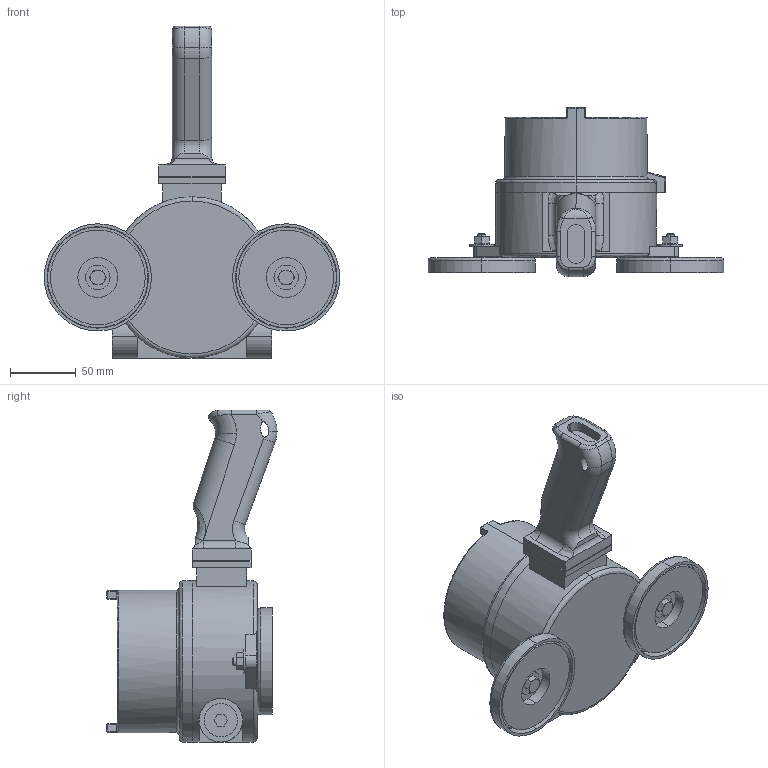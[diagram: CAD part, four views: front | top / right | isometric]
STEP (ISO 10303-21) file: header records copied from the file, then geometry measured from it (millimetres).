
FILE_DESCRIPTION (( 'STEP AP214' ), '1' );
FILE_NAME ('EXPCMR-IP-POE-4MP-IR-HM.STEP', '2020-03-02T20:15:52', ( '' ), ( '' ), 'SwSTEP 2.0', 'SolidWorks 2016', '' );
FILE_SCHEMA (( 'AUTOMOTIVE_DESIGN' ));
Length unit declared in the file: inch
Products named in the file (9): hex nut_ai_HNUT 0.2500-20-D-N; flat washer type b regular_ai_Regular FW 0.25; 50LB Magnet; EXPCMR-IP-POE-4MP-IR-HM - Handle; EPL-AED-1X; EPL-AED-1X Top; EPL-AED-1X Bottom; EXPCMR-IP-POE-4MP-IR-HM; hex bolt_ai_HBOLT 0.2500-20x0.875x0.75-N
Assembly tree (14 placements, depth 3):
  EXPCMR-IP-POE-4MP-IR-HM
    EPL-AED-1X
      EPL-AED-1X Bottom
      EPL-AED-1X Top
    EXPCMR-IP-POE-4MP-IR-HM - Handle
    50LB Magnet  x2
    flat washer type b regular_ai_Regular FW 0.25  x4
    hex nut_ai_HNUT 0.2500-20-D-N  x2
    hex bolt_ai_HBOLT 0.2500-20x0.875x0.75-N  x2
Bounding box: 224.16 x 128.94 x 251.78 mm (x, y, z)
Volume: 710371.5 mm3; surface area: 229138.4 mm2
Topology: 17 solids, 17 shells, 546 faces, 1266 edges, 768 vertices
Faces by surface type: cylinder 204, plane 185, bspline 89, cone 50, torus 18
Entity records: 17846 total; most frequent: CARTESIAN_POINT 7302, ORIENTED_EDGE 2168, DIRECTION 2024, EDGE_CURVE 1084, AXIS2_PLACEMENT_3D 789, VERTEX_POINT 662, EDGE_LOOP 512, FACE_OUTER_BOUND 462
